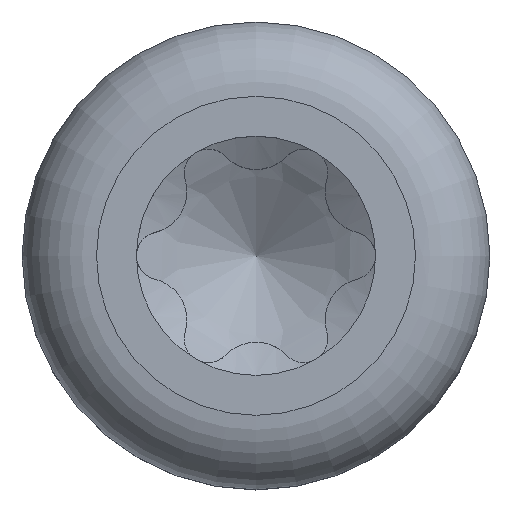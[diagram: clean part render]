
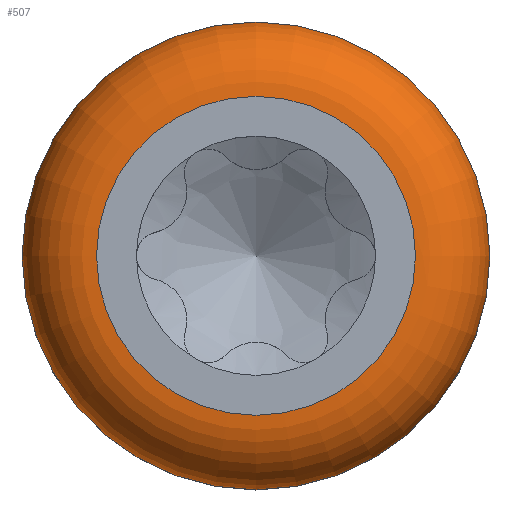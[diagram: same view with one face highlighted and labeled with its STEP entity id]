
A CAD part, top view. The second image highlights one B-rep face of the part: STEP entity #507.
In plain terms, the highlighted toroidal (fillet/blend) face has major radius 3 mm and minor radius 1.4 mm.
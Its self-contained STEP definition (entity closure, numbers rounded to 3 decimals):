
#467=TOROIDAL_SURFACE('',#2606,3.,1.4);
#478=FACE_BOUND('',#857,.T.);
#479=FACE_BOUND('',#858,.T.);
#507=ADVANCED_FACE('',(#478,#479),#467,.T.);
#857=EDGE_LOOP('',(#1127));
#858=EDGE_LOOP('',(#1128));
#1033=CIRCLE('',#2603,4.4);
#1034=CIRCLE('',#2605,3.);
#1127=ORIENTED_EDGE('',*,*,#2083,.F.);
#1128=ORIENTED_EDGE('',*,*,#2082,.T.);
#1863=VERTEX_POINT('',#6137);
#1864=VERTEX_POINT('',#6140);
#2082=EDGE_CURVE('',#1863,#1863,#1033,.T.);
#2083=EDGE_CURVE('',#1864,#1864,#1034,.T.);
#2603=AXIS2_PLACEMENT_3D('',#6136,#2671,#2672);
#2605=AXIS2_PLACEMENT_3D('',#6139,#2675,#2676);
#2606=AXIS2_PLACEMENT_3D('',#6141,#2677,#2678);
#2671=DIRECTION('',(0.,0.,1.));
#2672=DIRECTION('',(1.,0.,0.));
#2675=DIRECTION('',(0.,0.,1.));
#2676=DIRECTION('',(1.,0.,0.));
#2677=DIRECTION('',(0.,0.,1.));
#2678=DIRECTION('',(1.,0.,0.));
#6136=CARTESIAN_POINT('',(0.,0.,2.1));
#6137=CARTESIAN_POINT('',(4.4,0.,2.1));
#6139=CARTESIAN_POINT('',(0.,0.,3.5));
#6140=CARTESIAN_POINT('',(3.,0.,3.5));
#6141=CARTESIAN_POINT('',(0.,0.,2.1));
